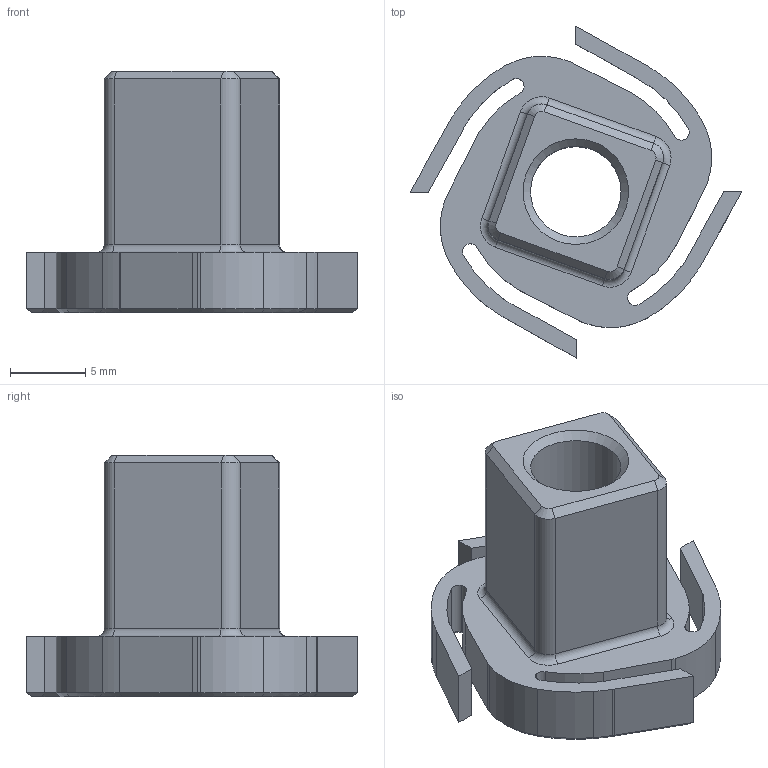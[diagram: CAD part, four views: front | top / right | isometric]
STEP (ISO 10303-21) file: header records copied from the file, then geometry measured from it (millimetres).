
FILE_DESCRIPTION( ( 'Unknown' ), '1' );
FILE_NAME( 'C:/Users/kcleven/Desktop/printer/ratchet/centre1.stp', 'Unknown', ( 'Unknown' ), ( 'Unknown' ), 'PSStep 16.0.42', 'Unknown', ' ' );
FILE_SCHEMA( ( 'AUTOMOTIVE_DESIGN { 1 0 10303 214 1 1 1 1 }' ) );
Length unit declared in the file: millimetre
Products named in the file (1): 1
Bounding box: 22 x 22 x 16 mm (x, y, z)
Volume: 1527.1 mm3; surface area: 1763.3 mm2
Topology: 1 solids, 1 shells, 173 faces, 418 edges, 249 vertices
Faces by surface type: plane 80, cylinder 46, cone 43, torus 4
Full cylindrical faces by diameter (mm): 6 x2, 8 x1
Entity records: 6345 total; most frequent: CARTESIAN_POINT 907, DIRECTION 872, ORIENTED_EDGE 820, EDGE_CURVE 410, AXIS2_PLACEMENT_3D 312, VERTEX_POINT 248, LINE 248, VECTOR 248
